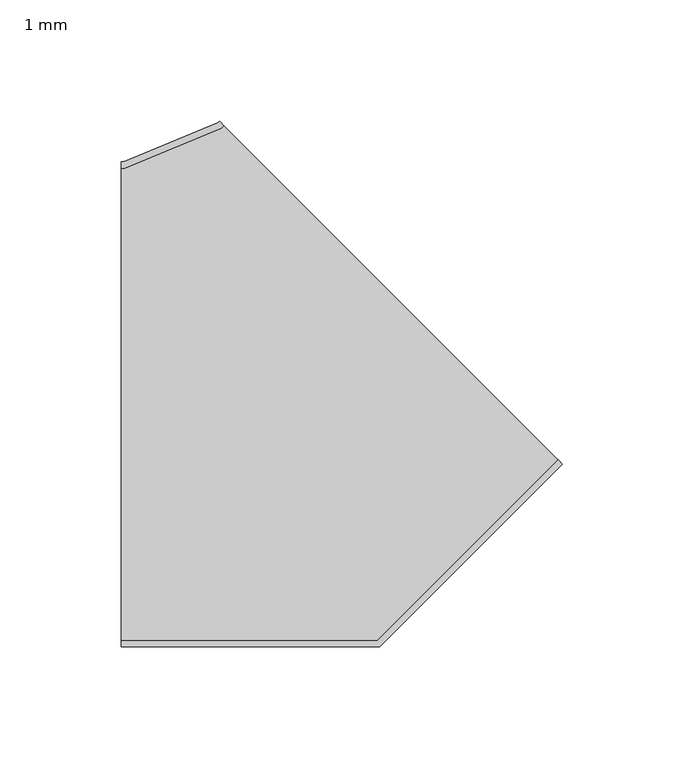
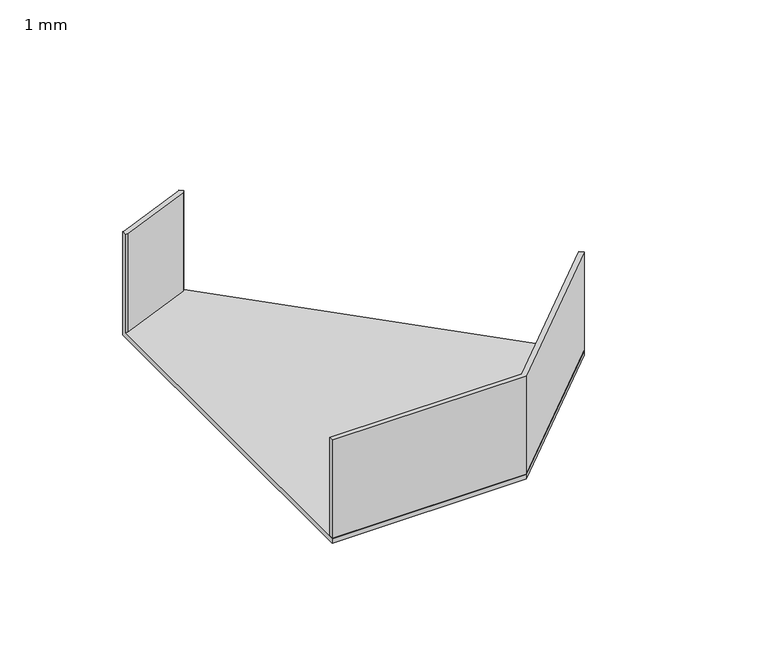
"""IFC4 building model written with IfcOpenShell, lengths in millimetres: cable carrier fitting geometry, BAKS_Kolano_koryta : 1 mm."""

from ifc_helpers import new_model, si_unit, frame, origin, place, context, project, spatial, polyline, outline, extrude, faceted_brep, source, transform, mapped, element, save


def cable_carrier_fitting_1_mm_fc54f34e(model_context):
    return source(origin(), model_context, "Body", "SolidModel", [
        faceted_brep([(-65.2031022, 97.46, 30.0), (-65.2031022, 100.0, 30.0), (-65.2031022, 100.0, -30.0), (-65.2031022, -100.0, -30.0), (-65.2031022, -100.0, -27.46), (-65.2031022, 97.46, -27.46), (-63.6978648, 97.46, 30.0), (-23.8734348, 113.955819, 30.0), (-22.8090712, 115.0201826, 30.0), (-24.6051224, 116.8162338, 30.0), (-25.3122292, 116.109127, 30.0), (-64.2031022, 100.0, 30.0), (-64.2031022, 100.0, -27.46), (-64.2031022, 100.0, -30.0), (-25.3122292, 116.109127, -30.0), (-24.6051224, 116.8162338, -30.0), (116.8162338, -24.6051224, -30.0), (41.4213562, -100.0, -30.0), (-63.6978648, 97.46, -27.46), (-25.3122292, 116.109127, -27.46), (-23.8734348, 113.955819, -27.46), (-22.8090712, 115.0201826, -27.46), (116.8162338, -24.6051224, -27.46), (41.4213562, -100.0, -27.46)], [[[0, 1, 2, 3, 4, 5]], [[1, 0, 6, 7, 8, 9, 10, 11]], [[2, 1, 11, 12, 13]], [[3, 2, 13, 14, 15, 16, 17]], [[6, 0, 5, 18]], [[11, 10, 19, 14, 13, 12]], [[7, 6, 18, 20]], [[9, 8, 21, 22, 16, 15]], [[10, 9, 15, 14, 19]], [[8, 7, 20, 21]], [[4, 23, 22, 21, 20, 18, 5]], [[23, 4, 3, 17]], [[22, 23, 17, 16]]]),
        extrude(outline(polyline([(-65.2031022, -100.0), (-65.2031022, -97.46), (40.3692538, -97.46), (115.0201826, -22.8090712), (116.8162338, -24.6051224), (41.4213562, -100.0), (-65.2031022, -100.0)])), frame((0.0, 0.0, -30.0), z_axis=(0.0, 0.0, 1.0), x_axis=(1.0, 0.0, 0.0)), (0.0, 0.0, 1.0), 60.0),
    ])


if __name__ == "__main__":
    model = new_model("IFC4")
    model_context = context("Model", 3, world=origin())
    ifc_project = project(units=[si_unit("LENGTHUNIT", "METRE", prefix="MILLI")], contexts=[model_context])
    site = spatial("IfcSite", under=ifc_project)
    building = spatial("IfcBuilding", under=site)
    placement = place(None, origin())
    cable_carrier_fitting_1_mm_shape = cable_carrier_fitting_1_mm_fc54f34e(model_context)
    element("IfcCableCarrierFitting", 1, ObjectType="BAKS_Kolano_koryta : 1 mm", at=placement, inside=building, context=model_context, shape_type="MappedRepresentation", body=[
        mapped(cable_carrier_fitting_1_mm_shape, transform((0.0, 0.0, 0.0), x_axis=(1.0, 0.0, 0.0), y_axis=(0.0, 1.0, 0.0), z_axis=(0.0, 0.0, 1.0))),
    ])
    save(model, "model.ifc")
